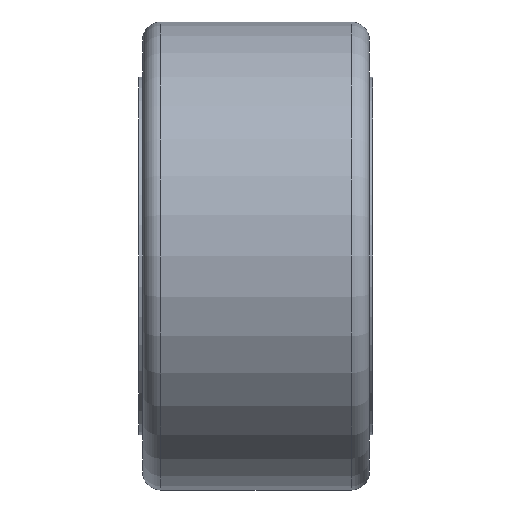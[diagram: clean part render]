
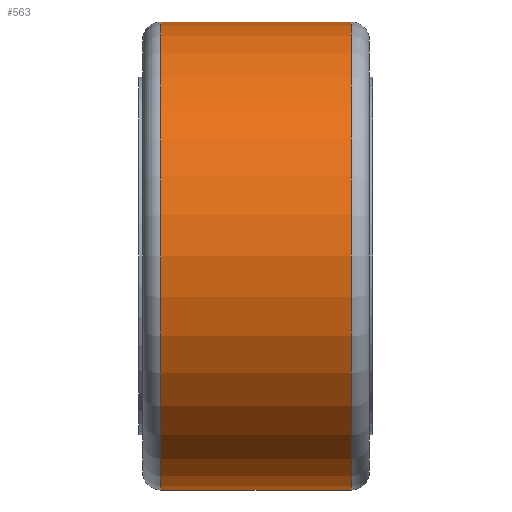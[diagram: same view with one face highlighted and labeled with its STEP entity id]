
A CAD part, left-side view. The second image highlights one B-rep face of the part: STEP entity #563.
In plain terms, the highlighted cylindrical face has radius 65 mm (diameter 130 mm), a partial arc.
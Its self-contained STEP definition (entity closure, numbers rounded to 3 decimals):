
#2 = AXIS2_PLACEMENT_3D ( 'NONE', #65, #342, #24 ) ;
#4 = VERTEX_POINT ( 'NONE', #471 ) ;
#6 = EDGE_CURVE ( 'NONE', #59, #4, #482, .T. ) ;
#24 = DIRECTION ( 'NONE',  ( 0., 0., 1. ) ) ;
#41 = ORIENTED_EDGE ( 'NONE', *, *, #6, .F. ) ;
#45 = EDGE_CURVE ( 'NONE', #59, #213, #160, .T. ) ;
#47 = CIRCLE ( 'NONE', #295, 65. ) ;
#52 = DIRECTION ( 'NONE',  ( 0., -1., 0. ) ) ;
#59 = VERTEX_POINT ( 'NONE', #112 ) ;
#65 = CARTESIAN_POINT ( 'NONE',  ( 0., 58., 0. ) ) ;
#91 = ORIENTED_EDGE ( 'NONE', *, *, #45, .T. ) ;
#95 = DIRECTION ( 'NONE',  ( 0., 0., -1. ) ) ;
#101 = CARTESIAN_POINT ( 'NONE',  ( 0., 58., -65. ) ) ;
#104 = CARTESIAN_POINT ( 'NONE',  ( 0., 5., -65. ) ) ;
#112 = CARTESIAN_POINT ( 'NONE',  ( 0., 58., 65. ) ) ;
#114 = CYLINDRICAL_SURFACE ( 'NONE', #401, 65. ) ;
#124 = CARTESIAN_POINT ( 'NONE',  ( 0., 63., -65. ) ) ;
#160 = CIRCLE ( 'NONE', #2, 65. ) ;
#169 = VECTOR ( 'NONE', #541, 1000. ) ;
#171 = ORIENTED_EDGE ( 'NONE', *, *, #311, .T. ) ;
#205 = VERTEX_POINT ( 'NONE', #104 ) ;
#210 = CARTESIAN_POINT ( 'NONE',  ( 0., 63., 65. ) ) ;
#213 = VERTEX_POINT ( 'NONE', #101 ) ;
#219 = DIRECTION ( 'NONE',  ( 0., 0., 1. ) ) ;
#235 = CARTESIAN_POINT ( 'NONE',  ( 0., 63., 0. ) ) ;
#245 = VECTOR ( 'NONE', #522, 1000. ) ;
#260 = CARTESIAN_POINT ( 'NONE',  ( 0., 5., 0. ) ) ;
#295 = AXIS2_PLACEMENT_3D ( 'NONE', #260, #484, #219 ) ;
#311 = EDGE_CURVE ( 'NONE', #213, #205, #526, .T. ) ;
#342 = DIRECTION ( 'NONE',  ( 0., -1., 0. ) ) ;
#377 = EDGE_CURVE ( 'NONE', #205, #4, #47, .T. ) ;
#401 = AXIS2_PLACEMENT_3D ( 'NONE', #235, #52, #95 ) ;
#440 = ORIENTED_EDGE ( 'NONE', *, *, #377, .T. ) ;
#449 = EDGE_LOOP ( 'NONE', ( #41, #91, #171, #440 ) ) ;
#471 = CARTESIAN_POINT ( 'NONE',  ( 0., 5., 65. ) ) ;
#482 = LINE ( 'NONE', #210, #245 ) ;
#484 = DIRECTION ( 'NONE',  ( 0., 1., 0. ) ) ;
#489 = FACE_OUTER_BOUND ( 'NONE', #449, .T. ) ;
#522 = DIRECTION ( 'NONE',  ( 0., -1., 0. ) ) ;
#526 = LINE ( 'NONE', #124, #169 ) ;
#541 = DIRECTION ( 'NONE',  ( 0., -1., 0. ) ) ;
#563 = ADVANCED_FACE ( 'NONE', ( #489 ), #114, .T. ) ;
